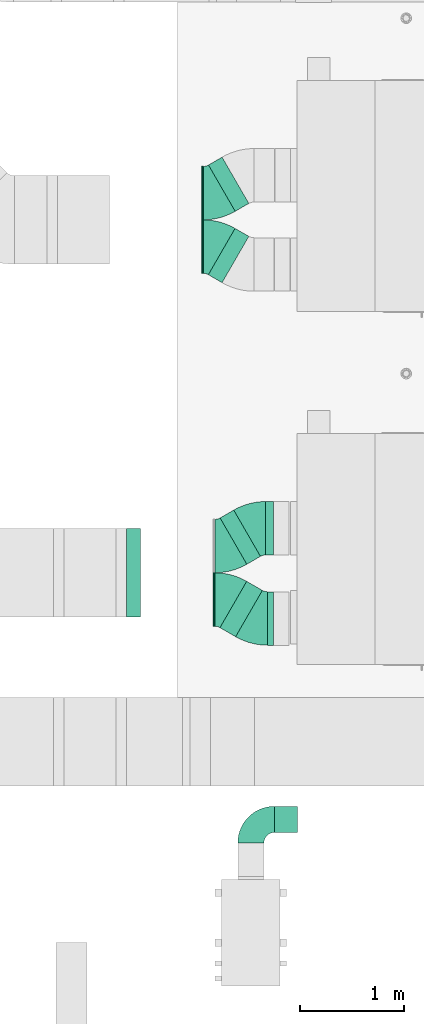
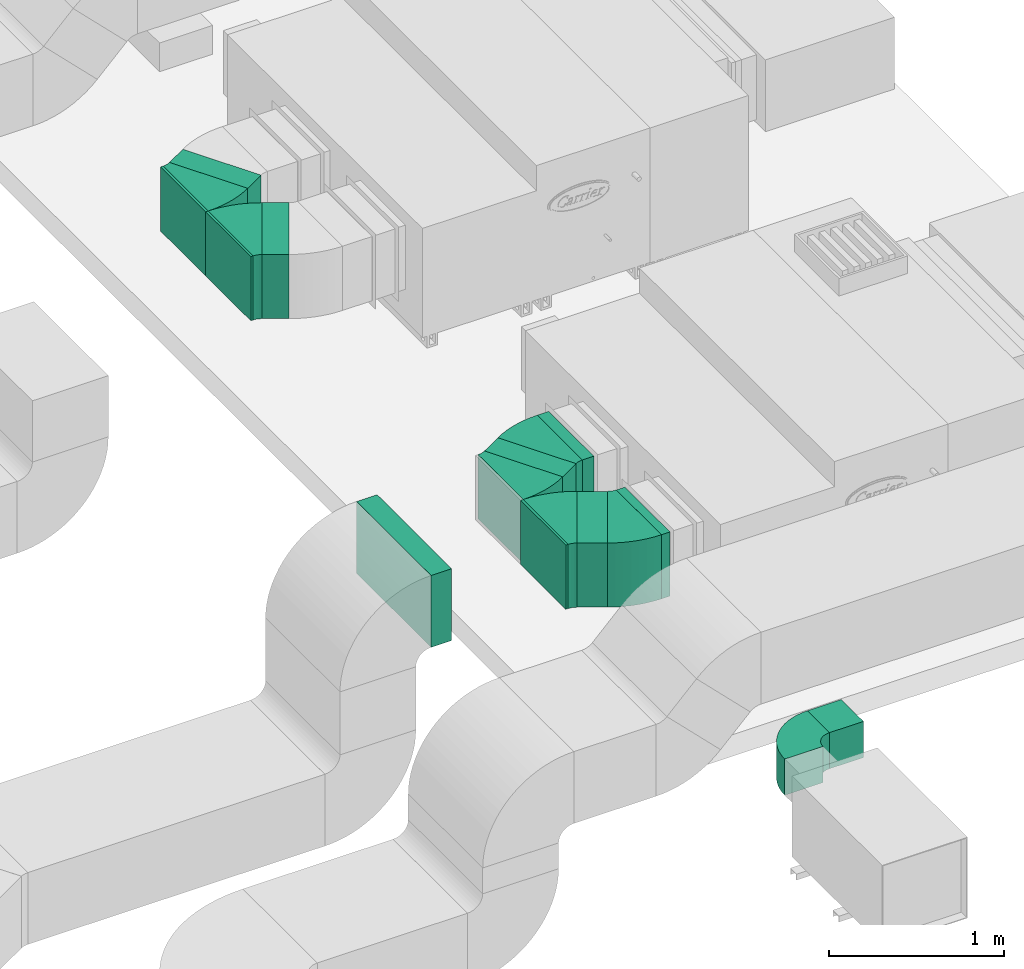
# One storey, part 4 of 10: 11 flow segments, 7 flow fittings.
"""IFC2X3 building model written with IfcOpenShell, lengths in millimetres."""

from ifc_helpers import new_model, entity, si_unit, converted_unit, derived_unit, direction, frame, frame_2d, origin, origin_2d_with_axis, place, context, subcontext, project, spatial, polyline, circle_curve, parameter, trimmed, segment, composite_curve, rectangle, outline, extrude, source, transform, mapped, material, type_object, type_shapes, element, save


model = new_model("IFC2X3")

# Units and contexts
model_context = context("Model", 3, precision=0.01, world=origin(), true_north=direction((6.123233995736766e-17, 1.0)))
body_context = subcontext(model_context, "Body", "Model", "MODEL_VIEW")
ifc_project = project(units=[si_unit("LENGTHUNIT", "METRE", prefix="MILLI"), converted_unit("PLANEANGLEUNIT", "DEGREE", entity("IfcPlaneAngleMeasure", 0.017453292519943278), si_unit("PLANEANGLEUNIT", "RADIAN"), dimensions=[0, 0, 0, 0, 0, 0, 0]), si_unit("AREAUNIT", "SQUARE_METRE"), derived_unit("THERMALTRANSMITTANCEUNIT", [(si_unit("MASSUNIT", "GRAM", prefix="KILO"), 1), (si_unit("THERMODYNAMICTEMPERATUREUNIT", "KELVIN"), -1), (si_unit("TIMEUNIT", "SECOND"), -3)])], contexts=[model_context])

# Site, building, storey
site_placement = place(None, origin())
site = spatial("IfcSite", under=ifc_project, at=site_placement, Name="Default", CompositionType="ELEMENT")
building_placement = place(site_placement, origin())
building = spatial("IfcBuilding", under=site, at=building_placement, Name="Praça Pedro II, 1301 - Centro (Sul), Teresina - PI, 64001-100", CompositionType="ELEMENT")
storey_placement = place(building_placement, frame((0.0, 0.0, 9040.0)))
storey = spatial("IfcBuildingStorey", under=building, at=storey_placement, Name="LAJE TÉCNICA", CompositionType="ELEMENT", Elevation=9040.0)

# Flow segments
duct_segment_type_1 = type_object("IfcDuctSegmentType", Name="Duto retangular:Raios cotovelos / tês", PredefinedType="NOTDEFINED")
flow_segment_1_placement = place(storey_placement, origin())
element("IfcFlowSegment", 1, at=flow_segment_1_placement, inside=storey, type_object=duct_segment_type_1, Name="Duto retangular:Raios cotovelos / tês", ObjectType="Duto retangular:Raios cotovelos / tês", context=body_context, shape_type="SweptSolid", body=[
    extrude(rectangle(XDim=74.78883986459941, YDim=515.0000000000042, at=frame_2d((2.163602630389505e-12, -4.320099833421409e-12), x_axis=(1.0, 0.0))), frame((36094.70606625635, -63774.283064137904, 1395.5482010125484), z_axis=(0.0, 0.0, 1.0), x_axis=(-1.0, 0.0, 0.0)), (0.0, 0.0, 1.0), 446.999999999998),
])
flow_segment_2_placement = place(storey_placement, origin())
element("IfcFlowSegment", 2, at=flow_segment_2_placement, inside=storey, type_object=duct_segment_type_1, Name="Duto retangular:Raios cotovelos / tês", ObjectType="Duto retangular:Raios cotovelos / tês", context=body_context, shape_type="SweptSolid", body=[
    extrude(rectangle(XDim=56.428498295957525, YDim=515.0000000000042, at=origin_2d_with_axis()), frame((36103.88623704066, -64643.88341228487, 1395.5482010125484), z_axis=(0.0, 0.0, 1.0), x_axis=(-1.0, 0.0, 0.0)), (0.0, 0.0, 1.0), 446.999999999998),
])
flow_segment_3_placement = place(storey_placement, origin())
element("IfcFlowSegment", 3, at=flow_segment_3_placement, inside=storey, type_object=duct_segment_type_1, Name="Duto retangular:Raios cotovelos / tês", ObjectType="Duto retangular:Raios cotovelos / tês", context=body_context, shape_type="SweptSolid", body=[
    extrude(rectangle(XDim=174.38105295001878, YDim=515.0000000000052, at=origin_2d_with_axis()), frame((35821.41277699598, -64552.3922309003, 1395.5482010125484), z_axis=(0.0, 0.0, 1.0), x_axis=(-0.8660254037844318, 0.500000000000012, 0.0)), (0.0, 0.0, 1.0), 446.9999999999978),
])
flow_segment_4_placement = place(storey_placement, origin())
element("IfcFlowSegment", 4, at=flow_segment_4_placement, inside=storey, type_object=duct_segment_type_1, Name="Duto retangular:Raios cotovelos / tês", ObjectType="Duto retangular:Raios cotovelos / tês", context=body_context, shape_type="SweptSolid", body=[
    extrude(rectangle(XDim=151.65229816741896, YDim=515.0000000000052, at=frame_2d((-2.1671553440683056e-12, -3.751665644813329e-12), x_axis=(1.0, 0.0))), frame((35812.89427494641, -63860.092056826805, 1395.5482010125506), z_axis=(0.0, 0.0, 1.0), x_axis=(-0.866025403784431, -0.5000000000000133, 0.0)), (0.0, 0.0, 1.0), 446.999999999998),
])
flow_segment_5_placement = place(storey_placement, origin())
element("IfcFlowSegment", 5, at=flow_segment_5_placement, inside=storey, type_object=duct_segment_type_1, Name="Duto retangular:Raios cotovelos / tês", ObjectType="Duto retangular:Raios cotovelos / tês", context=body_context, shape_type="SweptSolid", body=[
    extrude(rectangle(XDim=15.491009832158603, YDim=515.0000000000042, at=origin_2d_with_axis()), frame((35559.408061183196, -64460.90104951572, 1395.5482010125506), z_axis=(0.0, 0.0, 1.0), x_axis=(-1.0, 0.0, 0.0)), (0.0, 0.0, 1.0), 446.999999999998),
])
flow_segment_6_placement = place(storey_placement, origin())
element("IfcFlowSegment", 6, at=flow_segment_6_placement, inside=storey, type_object=duct_segment_type_1, Name="Duto retangular:Raios cotovelos / tês", ObjectType="Duto retangular:Raios cotovelos / tês", context=body_context, shape_type="SweptSolid", body=[
    extrude(rectangle(XDim=153.1803566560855, YDim=514.9999999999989, at=frame_2d((1.8758328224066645e-12, 1.0800249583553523e-12), x_axis=(1.0, 0.0))), frame((35700.21495805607, -61147.0920568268, 1382.5558825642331), z_axis=(0.0, 0.0, 1.0), x_axis=(-0.8660254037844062, 0.5000000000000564, 0.0)), (0.0, 0.0, 1.0), 446.999999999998),
])
flow_segment_7_placement = place(storey_placement, origin())
element("IfcFlowSegment", 7, at=flow_segment_7_placement, inside=storey, type_object=duct_segment_type_1, Name="Duto retangular:Raios cotovelos / tês", ObjectType="Duto retangular:Raios cotovelos / tês", context=body_context, shape_type="SweptSolid", body=[
    extrude(rectangle(XDim=151.65229816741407, YDim=515.0000000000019, at=frame_2d((2.913225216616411e-13, 4.831690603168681e-12), x_axis=(1.0, 0.0))), frame((35700.876626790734, -60460.092056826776, 1382.5558825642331), z_axis=(0.0, 0.0, 1.0), x_axis=(-0.8660254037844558, -0.4999999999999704, 0.0)), (0.0, 0.0, 1.0), 446.9999999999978),
])
flow_segment_8_placement = place(storey_placement, origin())
element("IfcFlowSegment", 8, at=flow_segment_8_placement, inside=storey, type_object=duct_segment_type_1, Name="Duto retangular:Raios cotovelos / tês", ObjectType="Duto retangular:Raios cotovelos / tês", context=body_context, shape_type="SweptSolid", body=[
    extrude(rectangle(XDim=16.814347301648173, YDim=515.0000000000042, at=frame_2d((4.330757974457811e-12, 0.0), x_axis=(1.0, 0.0))), frame((35448.05208176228, -60545.90104951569, 1382.5558825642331), z_axis=(0.0, 0.0, 1.0), x_axis=(-1.0, 0.0, 0.0)), (0.0, 0.0, 1.0), 446.999999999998),
])
flow_segment_9_placement = place(storey_placement, origin())
element("IfcFlowSegment", 9, at=flow_segment_9_placement, inside=storey, type_object=duct_segment_type_1, Name="Duto retangular:Raios cotovelos / tês", ObjectType="Duto retangular:Raios cotovelos / tês", context=body_context, shape_type="SweptSolid", body=[
    extrude(rectangle(XDim=15.491009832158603, YDim=515.0000000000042, at=origin_2d_with_axis()), frame((35447.390413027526, -61060.90104951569, 1382.5558825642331), z_axis=(0.0, 0.0, 1.0), x_axis=(-1.0, 0.0, 0.0)), (0.0, 0.0, 1.0), 446.999999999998),
])
flow_segment_10_placement = place(storey_placement, origin())
element("IfcFlowSegment", 10, at=flow_segment_10_placement, inside=storey, type_object=duct_segment_type_1, Name="Duto retangular:Raios cotovelos / tês", ObjectType="Duto retangular:Raios cotovelos / tês", context=body_context, shape_type="SweptSolid", body=[
    extrude(rectangle(XDim=135.73638618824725, YDim=849.9999999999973, at=frame_2d((0.0, 4.348521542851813e-12), x_axis=(1.0, 0.0))), frame((34783.794363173, -64203.40104951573, 1369.0482010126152)), (0.0, 0.0, 1.0), 499.999999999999),
])
duct_segment_type_2 = type_object("IfcDuctSegmentType", Name="Duto retangular:Raios cotovelos / torneiras", PredefinedType="NOTDEFINED")
flow_segment_11_placement = place(storey_placement, origin())
element("IfcFlowSegment", 11, at=flow_segment_11_placement, inside=storey, type_object=duct_segment_type_2, Name="Duto retangular:Raios cotovelos / torneiras", ObjectType="Duto retangular:Raios cotovelos / torneiras", context=body_context, shape_type="SweptSolid", body=[
    extrude(rectangle(XDim=224.27484102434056, YDim=251.9000000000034, at=frame_2d((-2.1671553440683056e-12, 0.0), x_axis=(1.0, 0.0))), frame((36252.96075652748, -66578.96106610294, 1283.0500000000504)), (0.0, 0.0, 1.0), 251.89999999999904),
])

# Flow fittings
ifc_material = material(Name="<Unnamed>")
duct_fitting_type_1 = type_object("IfcDuctFittingType", Name="BTS vanes:1 Splitter Vanes", PredefinedType="NOTDEFINED", material=ifc_material)
shared_shape_1 = source(origin(), body_context, "Body", "SweptSolid", [
    extrude(outline(composite_curve([segment(polyline([(-281.4479590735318, -89.37500000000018), (233.55204092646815, -89.37500000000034)]), True, "CONTINUOUS"), segment(trimmed(circle_curve(frame_2d((333.5520409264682, -89.37500000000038), x_axis=(-0.8660254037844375, 0.5000000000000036)), 100.0), [parameter(0.0)], [parameter(30.0000000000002)], True, "PARAMETER"), False, "CONTINUOUS"), segment(polyline([(246.94950054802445, -39.3750000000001), (-199.05358240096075, 218.1250000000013)]), True, "CONTINUOUS"), segment(trimmed(circle_curve(frame_2d((333.5520409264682, -89.37500000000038), x_axis=(-0.8660254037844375, 0.5000000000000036)), 615.0), [parameter(0.0)], [parameter(30.0000000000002)], True, "PARAMETER"), True, "CONTINUOUS")], self_intersect=False)), frame((-6.416836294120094, 23.947959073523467, -223.50000000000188), z_axis=(0.0, 0.0, 1.0), x_axis=(-0.5000000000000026, 0.8660254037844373, 0.0)), (0.0, 0.0, 1.0), 446.99999999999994),
    extrude(outline(composite_curve([segment(polyline([(-26.353758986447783, -29.605263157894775), (10.488346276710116, -29.60526315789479)]), True, "CONTINUOUS"), segment(trimmed(circle_curve(frame_2d((110.4883462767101, -29.605263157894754), x_axis=(-0.8660254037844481, 0.5)), 100.0), [parameter(0.0)], [parameter(30.0000000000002)], True, "PARAMETER"), False, "CONTINUOUS"), segment(polyline([(23.88580589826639, 20.394736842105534), (-8.020393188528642, 38.81578947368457)]), True, "CONTINUOUS"), segment(trimmed(circle_curve(frame_2d((110.4883462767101, -29.605263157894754), x_axis=(-0.8660254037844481, 0.5)), 136.8421052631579), [parameter(0.0)], [parameter(30.0000000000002)], True, "PARAMETER"), True, "CONTINUOUS")], self_intersect=False)), frame((-66.18657313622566, 247.0116537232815, -223.50000000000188), z_axis=(0.0, 0.0, 1.0), x_axis=(-0.5000000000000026, 0.8660254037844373, 0.0)), (0.0, 0.0, 1.0), 446.99999999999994),
])
type_shapes(duct_fitting_type_1, [shared_shape_1])
for number, where, z_axis, x_axis, name in (
    (12, (35979.880151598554, -64643.88341228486, 1619.0482010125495), (0.0, 0.0, 1.0), (0.8660254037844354, -0.5000000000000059, 0.0), "BTS vanes:1 Splitter Vanes"),
    (13, (35961.51981002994, -63774.283064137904, 1619.0482010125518), (0.0, 0.0, 1.0), (-1.0, 0.0, 0.0), "BTS vanes:1 Splitter Vanes"),
    (14, (35662.94540239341, -64460.90104951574, 1619.0482010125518), (0.0, 0.0, 1.0), (-0.866025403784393, 0.5000000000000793, 0.0), "BTS vanes:1 Splitter Vanes"),
):
    element("IfcFlowFitting", number, at=place(storey_placement, frame(where, z_axis=z_axis, x_axis=x_axis)), inside=storey, type_object=duct_fitting_type_1, material=ifc_material, Name=name, ObjectType="BTS vanes:1 Splitter Vanes", context=body_context, shape_type="MappedRepresentation", body=[
        mapped(shared_shape_1, transform((0.0, 0.0, 0.0), scale=1.0)),
    ])
flow_fitting_1_placement = place(storey_placement, frame((35664.26873986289, -63945.9010495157, 1619.0482010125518)))
element("IfcFlowFitting", 15, at=flow_fitting_1_placement, inside=storey, type_object=duct_fitting_type_1, material=ifc_material, Name="BTS vanes:1 Splitter Vanes", ObjectType="BTS vanes:1 Splitter Vanes", context=body_context, shape_type="MappedRepresentation", body=[
    mapped(shared_shape_1, transform((0.0, 0.0, 0.0), scale=1.0)),
])
flow_fitting_2_placement = place(storey_placement, frame((35550.92775423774, -61060.90104951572, 1606.0558825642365), z_axis=(0.0, 0.0, 1.0), x_axis=(-0.8660254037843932, 0.5000000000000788, 0.0)))
element("IfcFlowFitting", 16, at=flow_fitting_2_placement, inside=storey, type_object=duct_fitting_type_1, material=ifc_material, Name="BTS vanes:1 Splitter Vanes", ObjectType="BTS vanes:1 Splitter Vanes", context=body_context, shape_type="MappedRepresentation", body=[
    mapped(shared_shape_1, transform((0.0, 0.0, 0.0), scale=1.0)),
])
flow_fitting_3_placement = place(storey_placement, frame((35552.251091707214, -60545.90104951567, 1606.0558825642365)))
element("IfcFlowFitting", 17, at=flow_fitting_3_placement, inside=storey, type_object=duct_fitting_type_1, material=ifc_material, Name="BTS vanes:1 Splitter Vanes", ObjectType="BTS vanes:1 Splitter Vanes", context=body_context, shape_type="MappedRepresentation", body=[
    mapped(shared_shape_1, transform((0.0, 0.0, 0.0), scale=1.0)),
])
duct_fitting_type_2 = type_object("IfcDuctFittingType", Name="BTS vanes:1 Splitter Vanes", PredefinedType="NOTDEFINED", material=ifc_material)
shared_shape_2 = source(origin(), body_context, "Body", "SweptSolid", [
    extrude(outline(composite_curve([segment(polyline([(-238.92499999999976, -112.97499999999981), (12.975000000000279, -112.97499999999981)]), True, "CONTINUOUS"), segment(trimmed(circle_curve(frame_2d((112.97500000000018, -112.97499999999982), x_axis=(0.0, 1.0)), 99.99999999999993), [parameter(0.0)], [parameter(89.99999999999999)], True, "PARAMETER"), False, "CONTINUOUS"), segment(polyline([(112.975, -12.974999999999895), (112.97499999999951, 238.9250000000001)]), True, "CONTINUOUS"), segment(trimmed(circle_curve(frame_2d((112.97500000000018, -112.97499999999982), x_axis=(0.0, 1.0)), 351.9), [parameter(0.0)], [parameter(89.99999999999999)], True, "PARAMETER"), True, "CONTINUOUS")], self_intersect=False)), frame((-112.9749999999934, 112.97499999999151, -125.95000000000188), z_axis=(0.0, 0.0, 1.0), x_axis=(-1.0, 0.0, 0.0)), (0.0, 0.0, 1.0), 251.90000000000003),
    extrude(outline(composite_curve([segment(polyline([(-77.63157894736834, -59.21052631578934), (-40.78947368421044, -59.21052631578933)]), True, "CONTINUOUS"), segment(trimmed(circle_curve(frame_2d((59.21052631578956, -59.21052631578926), x_axis=(0.0, 1.0)), 100.0), [parameter(0.0)], [parameter(90.00000000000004)], True, "PARAMETER"), False, "CONTINUOUS"), segment(polyline([(59.21052631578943, 40.789473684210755), (59.210526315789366, 77.63157894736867)]), True, "CONTINUOUS"), segment(trimmed(circle_curve(frame_2d((59.21052631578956, -59.21052631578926), x_axis=(0.0, 1.0)), 136.8421052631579), [parameter(0.0)], [parameter(89.99999999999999)], True, "PARAMETER"), True, "CONTINUOUS")], self_intersect=False)), frame((-166.73947368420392, 166.73947368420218, -125.95000000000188), z_axis=(0.0, 0.0, 1.0), x_axis=(-1.0, 0.0, 0.0)), (0.0, 0.0, 1.0), 251.90000000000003),
])
type_shapes(duct_fitting_type_2, [shared_shape_2])
flow_fitting_4_placement = place(storey_placement, frame((35914.87333601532, -66578.96106610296, 1409.0), z_axis=(0.0, 0.0, 1.0), x_axis=(-1.0, 0.0, 0.0)))
element("IfcFlowFitting", 18, at=flow_fitting_4_placement, inside=storey, type_object=duct_fitting_type_2, material=ifc_material, Name="BTS vanes:1 Splitter Vanes", ObjectType="BTS vanes:1 Splitter Vanes", context=body_context, shape_type="MappedRepresentation", body=[
    mapped(shared_shape_2, transform((0.0, 0.0, 0.0), scale=1.0)),
])

save(model, "model.ifc")
